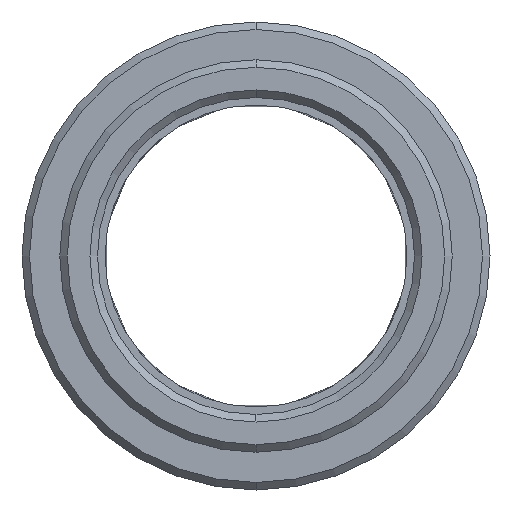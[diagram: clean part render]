
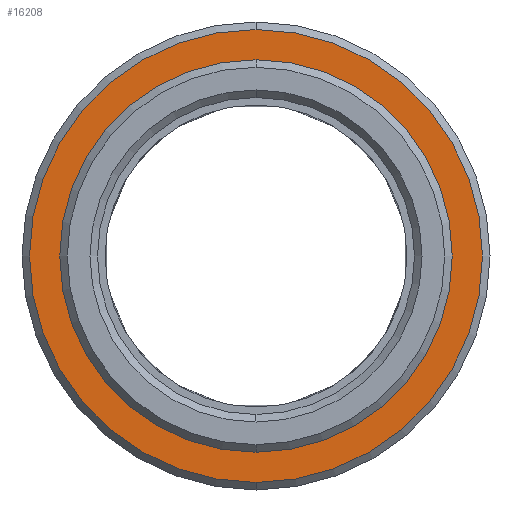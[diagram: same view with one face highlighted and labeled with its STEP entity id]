
A CAD part, left-side view. The second image highlights one B-rep face of the part: STEP entity #16208.
In plain terms, the highlighted planar face has unit normal (-1, 0, 0).
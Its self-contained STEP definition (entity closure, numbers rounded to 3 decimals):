
#6420=CARTESIAN_POINT('',(0.,0.,0.));
#6421=DIRECTION('',(1.,0.,0.));
#6422=DIRECTION('',(0.,0.,1.));
#6423=AXIS2_PLACEMENT_3D('',#6420,#6421,#6422);
#6425=CARTESIAN_POINT('',(0.,0.,0.));
#6426=DIRECTION('',(-1.,0.,0.));
#6427=DIRECTION('',(0.,0.,1.));
#6428=AXIS2_PLACEMENT_3D('',#6425,#6426,#6427);
#6430=CARTESIAN_POINT('',(0.,0.,
0.));
#6431=DIRECTION('',(1.,0.,0.));
#6432=DIRECTION('',(0.,0.,-1.));
#6433=AXIS2_PLACEMENT_3D('',#6430,#6431,#6432);
#6435=CARTESIAN_POINT('',(0.,0.,0.));
#6436=DIRECTION('',(1.,0.,0.));
#6437=DIRECTION('',(0.,0.,1.));
#6438=AXIS2_PLACEMENT_3D('',#6435,#6436,#6437);
#13026=CARTESIAN_POINT('',(0.,0.,-15.));
#13027=CARTESIAN_POINT('',(0.,0.,15.));
#13028=VERTEX_POINT('',#13026);
#13029=VERTEX_POINT('',#13027);
#13554=CARTESIAN_POINT('',(0.,0.,13.));
#13555=CARTESIAN_POINT('',(0.,0.,-13.));
#13556=VERTEX_POINT('',#13554);
#13557=VERTEX_POINT('',#13555);
#16193=CARTESIAN_POINT('',(0.,0.,0.));
#16194=DIRECTION('',(1.,0.,0.));
#16195=DIRECTION('',(0.,0.,1.));
#16196=AXIS2_PLACEMENT_3D('',#16193,#16194,#16195);
#16197=PLANE('',#16196);
#16199=ORIENTED_EDGE('',*,*,#16198,.T.);
#16201=ORIENTED_EDGE('',*,*,#16200,.T.);
#16202=EDGE_LOOP('',(#16199,#16201));
#16203=FACE_OUTER_BOUND('',#16202,.F.);
#16204=ORIENTED_EDGE('',*,*,#16160,.F.);
#16205=ORIENTED_EDGE('',*,*,#16175,.T.);
#16206=EDGE_LOOP('',(#16204,#16205));
#16207=FACE_BOUND('',#16206,.F.);
#16208=ADVANCED_FACE('',(#16203,#16207),#16197,.F.);
#6424=CIRCLE('',#6423,13.);
#6429=CIRCLE('',#6428,13.);
#6434=CIRCLE('',#6433,15.);
#6439=CIRCLE('',#6438,15.);
#16160=EDGE_CURVE('',#13556,#13557,#6424,.T.);
#16175=EDGE_CURVE('',#13556,#13557,#6429,.T.);
#16198=EDGE_CURVE('',#13028,#13029,#6434,.T.);
#16200=EDGE_CURVE('',#13029,#13028,#6439,.T.);
